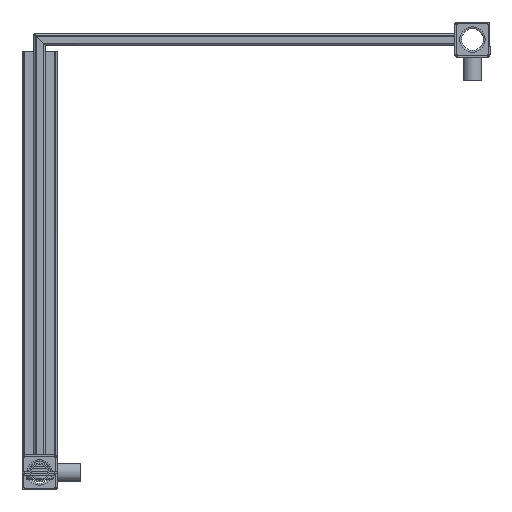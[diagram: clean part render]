
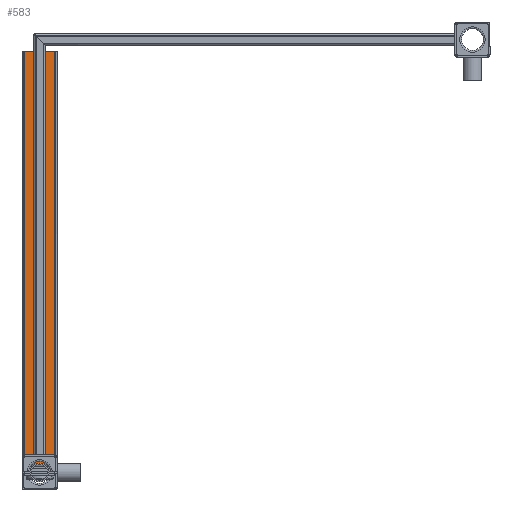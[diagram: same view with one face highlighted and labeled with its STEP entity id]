
A CAD part, front view. The second image highlights one B-rep face of the part: STEP entity #583.
In plain terms, the highlighted planar face has unit normal (0, -1, 0) as drawn and (0, 0, 1) by its records, which use the part's own axes.
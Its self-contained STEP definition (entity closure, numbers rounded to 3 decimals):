
#583 = ADVANCED_FACE( '', ( #1221 ), #1222, .T. );
#1221 = FACE_OUTER_BOUND( '', #1904, .T. );
#1222 = PLANE( '', #1905 );
#1904 = EDGE_LOOP( '', ( #3655, #3656, #3657, #3658 ) );
#1905 = AXIS2_PLACEMENT_3D( '', #3659, #3660, #3661 );
#3655 = ORIENTED_EDGE( '', *, *, #4555, .F. );
#3656 = ORIENTED_EDGE( '', *, *, #4339, .T. );
#3657 = ORIENTED_EDGE( '', *, *, #4191, .F. );
#3658 = ORIENTED_EDGE( '', *, *, #4100, .T. );
#3659 = CARTESIAN_POINT( '', ( 15., 389.28, 5. ) );
#3660 = DIRECTION( '', ( 0., 0., 1. ) );
#3661 = DIRECTION( '', ( 1., 0., 0. ) );
#4100 = EDGE_CURVE( '', #5002, #4999, #5003, .T. );
#4191 = EDGE_CURVE( '', #5002, #5124, #5146, .T. );
#4339 = EDGE_CURVE( '', #5355, #5124, #5357, .F. );
#4555 = EDGE_CURVE( '', #5355, #4999, #5623, .T. );
#4999 = VERTEX_POINT( '', #6187 );
#5002 = VERTEX_POINT( '', #6190 );
#5003 = LINE( '', #6191, #6192 );
#5124 = VERTEX_POINT( '', #6355 );
#5146 = LINE( '', #6382, #6383 );
#5355 = VERTEX_POINT( '', #6674 );
#5357 = LINE( '', #6676, #6677 );
#5623 = LINE( '', #7049, #7050 );
#6187 = CARTESIAN_POINT( '', ( -13., 25., 5. ) );
#6190 = CARTESIAN_POINT( '', ( -13., 380., 5. ) );
#6191 = CARTESIAN_POINT( '', ( -13., 389.28, 5. ) );
#6192 = VECTOR( '', #7454, 1000. );
#6355 = CARTESIAN_POINT( '', ( 13., 380., 5. ) );
#6382 = CARTESIAN_POINT( '', ( -15., 380., 5. ) );
#6383 = VECTOR( '', #7577, 1000. );
#6674 = CARTESIAN_POINT( '', ( 13., 25., 5. ) );
#6676 = CARTESIAN_POINT( '', ( 13., 389.28, 5. ) );
#6677 = VECTOR( '', #7754, 1000. );
#7049 = CARTESIAN_POINT( '', ( 15., 25., 5. ) );
#7050 = VECTOR( '', #7969, 1000. );
#7454 = DIRECTION( '', ( 0., -1., 0. ) );
#7577 = DIRECTION( '', ( 1., 0., 0. ) );
#7754 = DIRECTION( '', ( 0., -1., 0. ) );
#7969 = DIRECTION( '', ( -1., 0., 0. ) );
